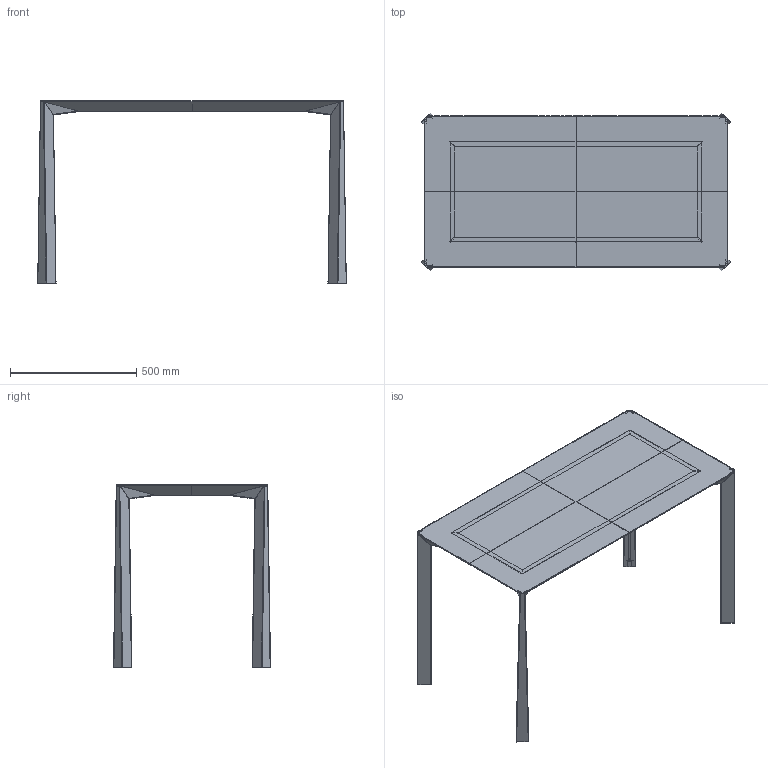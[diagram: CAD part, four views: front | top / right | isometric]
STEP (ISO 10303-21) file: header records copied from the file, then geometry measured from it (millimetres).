
FILE_DESCRIPTION(/* description */ (''),/* implementation_level */ '2;1');
FILE_NAME(/* name */ 'ovidio S 120x60x72h 3D',/* time_stamp */ '2017-05-31T11:19:29+02:00',/* author */ (''),/* organization */ (''),/* preprocessor_version */ 'ST-DEVELOPER v10',/* originating_system */ '',/* authorisation */ '');
FILE_SCHEMA (('CONFIG_CONTROL_DESIGN'));
Length unit declared in the file: millimetre
Products named in the file (1): 1
Bounding box: 1221.92 x 621.92 x 721.53 mm (x, y, z)
Surface area: 3359854.5 mm2 (no closed solid volume)
Topology: 0 solids, 1138 shells, 1138 faces, 5652 edges, 5652 vertices
Faces by surface type: bspline 626, plane 512
Entity records: 58300 total; most frequent: CARTESIAN_POINT 29102, ORIENTED_EDGE 5652, EDGE_CURVE 5652, VERTEX_POINT 5652, B_SPLINE_CURVE_WITH_KNOTS 4596, EDGE_LOOP 1170, SHELL_BASED_SURFACE_MODEL 1138, OPEN_SHELL 1138
